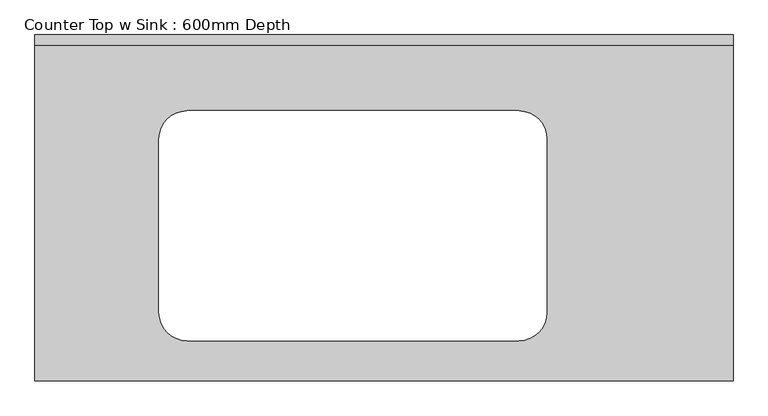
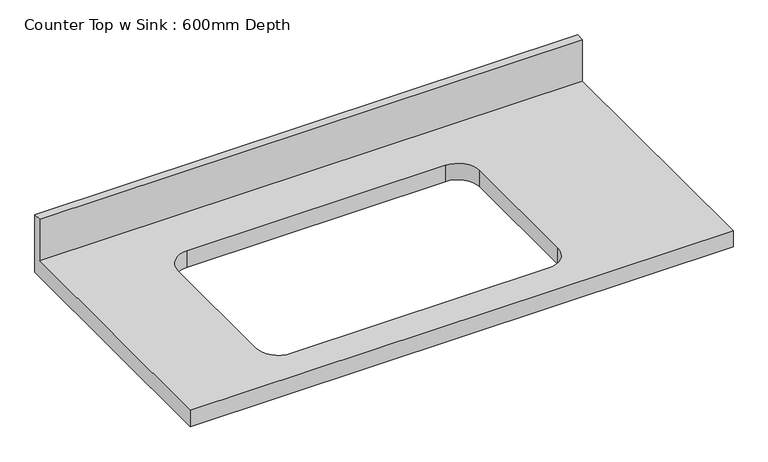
"""IFC4 building model written with IfcOpenShell, lengths in millimetres: furniture geometry, Counter Top w Sink : 600mm Depth."""

from ifc_helpers import new_model, si_unit, frame, origin, place, context, project, spatial, polyline, circle_curve, source, transform, mapped, element, save
from ifc_brep_helpers import plane_surface, revolved_surface, advanced_brep


def counter_top_w_sink_600mm_depth_91ecdec2(model_context):
    return source(origin(), model_context, "Body", "AdvancedBrep", [
        advanced_brep(
        [(-1200.4622951, -625.0, 900.0), (59.8450083, -625.0, 900.0), (59.8450083, -19.05, 900.0), (-1200.4622951, -19.05, 900.0), (-925.6770386, -137.3, 900.0), (-326.8770386, -137.3, 900.0), (-276.0770386, -188.1, 900.0), (-276.0770386, -501.9, 900.0), (-326.8770386, -552.7, 900.0), (-925.6770386, -552.7, 900.0), (-976.4770386, -501.9, 900.0), (-976.4770386, -188.1, 900.0), (59.8450083, 0.0, 860.0), (59.8450083, -625.0, 860.0), (-1200.4622951, -625.0, 860.0), (-1200.4622951, 0.0, 860.0), (-326.8770386, -137.3, 860.0), (-925.6770386, -137.3, 860.0), (-976.4770386, -188.1, 860.0), (-976.4770386, -501.9, 860.0), (-925.6770386, -552.7, 860.0), (-326.8770386, -552.7, 860.0), (-276.0770386, -501.9, 860.0), (-276.0770386, -188.1, 860.0), (-1200.4622951, 0.0, 1001.6), (59.8450083, 0.0, 1001.6), (-1200.4622951, -19.05, 1001.6), (59.8450083, -19.05, 1001.6)],
        [
            (0, 1),
            (1, 2),
            (2, 3),
            (3, 0),
            (4, 5),
            (5, 6, circle_curve(frame((-326.8770386, -188.1, 900.0), z_axis=(0.0, 0.0, -1.0), x_axis=(1.0, 0.0, 0.0)), 50.8)),
            (6, 7),
            (7, 8, circle_curve(frame((-326.8770386, -501.9, 900.0), z_axis=(0.0, 0.0, -1.0), x_axis=(1.0, 0.0, 0.0)), 50.8)),
            (8, 9),
            (9, 10, circle_curve(frame((-925.6770386, -501.9, 900.0), z_axis=(0.0, 0.0, -1.0), x_axis=(1.0, 0.0, 0.0)), 50.8)),
            (10, 11),
            (11, 4, circle_curve(frame((-925.6770386, -188.1, 900.0), z_axis=(0.0, 0.0, -1.0), x_axis=(1.0, 0.0, 0.0)), 50.8)),
            (12, 13),
            (13, 14),
            (14, 15),
            (15, 12),
            (16, 17),
            (17, 18, circle_curve(frame((-925.6770386, -188.1, 860.0), z_axis=(0.0, 0.0, 1.0), x_axis=(1.0, 0.0, 0.0)), 50.8)),
            (18, 19),
            (19, 20, circle_curve(frame((-925.6770386, -501.9, 860.0), z_axis=(0.0, 0.0, 1.0), x_axis=(1.0, 0.0, 0.0)), 50.8)),
            (20, 21),
            (21, 22, circle_curve(frame((-326.8770386, -501.9, 860.0), z_axis=(0.0, 0.0, 1.0), x_axis=(1.0, 0.0, 0.0)), 50.8)),
            (22, 23),
            (23, 16, circle_curve(frame((-326.8770386, -188.1, 860.0), z_axis=(0.0, 0.0, 1.0), x_axis=(1.0, 0.0, 0.0)), 50.8)),
            (15, 24),
            (24, 25),
            (25, 12),
            (14, 0),
            (3, 26),
            (26, 24),
            (13, 1),
            (25, 27),
            (27, 2),
            (26, 27),
            (4, 17),
            (16, 5),
            (11, 18),
            (10, 19),
            (9, 20),
            (8, 21),
            (7, 22),
            (6, 23),
        ],
        [
            plane_surface(frame((-1200.4622951, 0.0, 900.0), z_axis=(0.0, 0.0, 1.0), x_axis=(-1.0, 0.0, 0.0))),
            plane_surface(frame((-1200.4622951, 0.0, 860.0), z_axis=(0.0, 0.0, -1.0), x_axis=(1.0, 0.0, 0.0))),
            plane_surface(frame((59.8450083, 0.0, 900.0), z_axis=(0.0, 1.0, 0.0), x_axis=(0.0, 0.0, -1.0))),
            plane_surface(frame((-1200.4622951, 0.0, 900.0), z_axis=(-1.0, 0.0, 0.0), x_axis=(0.0, 0.0, -1.0))),
            plane_surface(frame((-1200.4622951, -625.0, 900.0), z_axis=(0.0, -1.0, 0.0), x_axis=(0.0, 0.0, -1.0))),
            plane_surface(frame((59.8450083, -625.0, 900.0), z_axis=(1.0, 0.0, 0.0), x_axis=(0.0, 0.0, -1.0))),
            plane_surface(frame((-1200.4622951, 0.0, 1001.6), z_axis=(0.0, 0.0, 1.0), x_axis=(0.0, -1.0, 0.0))),
            plane_surface(frame((-1200.4622951, -19.05, 1001.6), z_axis=(0.0, -1.0, 0.0), x_axis=(0.0, 0.0, -1.0))),
            plane_surface(frame((-326.8770386, -137.3, 900.0), z_axis=(0.0, -1.0, 0.0), x_axis=(0.0, 0.0, -1.0))),
            revolved_surface(polyline([(-874.8770386, -188.1, 900.0), (-874.8770386, -188.1, 860.0)]), (-925.6770386, -188.1, 860.0), (0.0, 0.0, 1.0)),
            plane_surface(frame((-976.4770386, -188.1, 900.0), z_axis=(1.0, 0.0, 0.0), x_axis=(0.0, 0.0, -1.0))),
            revolved_surface(polyline([(-874.8770386, -501.9, 900.0), (-874.8770386, -501.9, 860.0)]), (-925.6770386, -501.9, 860.0), (0.0, 0.0, 1.0)),
            plane_surface(frame((-925.6770386, -552.7, 900.0), z_axis=(0.0, 1.0, 0.0), x_axis=(0.0, 0.0, -1.0))),
            revolved_surface(polyline([(-276.0770386, -501.9, 900.0), (-276.0770386, -501.9, 860.0)]), (-326.8770386, -501.9, 860.0), (0.0, 0.0, 1.0)),
            plane_surface(frame((-276.0770386, -501.9, 900.0), z_axis=(-1.0, 0.0, 0.0), x_axis=(0.0, 0.0, -1.0))),
            revolved_surface(polyline([(-276.0770386, -188.1, 900.0), (-276.0770386, -188.1, 860.0)]), (-326.8770386, -188.1, 860.0), (0.0, 0.0, 1.0)),
        ],
        [
            (0, [[1, 2, 3, 4], [5, 6, 7, 8, 9, 10, 11, 12]]),
            (1, [[13, 14, 15, 16], [17, 18, 19, 20, 21, 22, 23, 24]]),
            (2, [[-16, 25, 26, 27]]),
            (3, [[-15, 28, -4, 29, 30, -25]]),
            (4, [[-1, -28, -14, 31]]),
            (5, [[-13, -27, 32, 33, -2, -31]]),
            (6, [[-30, 34, -32, -26]]),
            (7, [[-34, -29, -3, -33]]),
            (8, [[35, -17, 36, -5]]),
            (9, [[-35, -12, 37, -18]]),
            (10, [[-37, -11, 38, -19]]),
            (11, [[-38, -10, 39, -20]]),
            (12, [[-39, -9, 40, -21]]),
            (13, [[-40, -8, 41, -22]]),
            (14, [[-41, -7, 42, -23]]),
            (15, [[-36, -24, -42, -6]]),
        ],
    ),
    ])


if __name__ == "__main__":
    model = new_model("IFC4")
    model_context = context("Model", 3, world=origin())
    ifc_project = project(units=[si_unit("LENGTHUNIT", "METRE", prefix="MILLI")], contexts=[model_context])
    site = spatial("IfcSite", under=ifc_project)
    building = spatial("IfcBuilding", under=site)
    placement = place(None, origin())
    counter_top_w_sink_600mm_depth_shape = counter_top_w_sink_600mm_depth_91ecdec2(model_context)
    element("IfcFurniture", 1, ObjectType="Counter Top w Sink : 600mm Depth", at=placement, inside=building, context=model_context, shape_type="MappedRepresentation", body=[
        mapped(counter_top_w_sink_600mm_depth_shape, transform((0.0, 0.0, 0.0), x_axis=(1.0, 0.0, 0.0), y_axis=(0.0, 1.0, 0.0), z_axis=(0.0, 0.0, 1.0))),
    ])
    save(model, "model.ifc")
